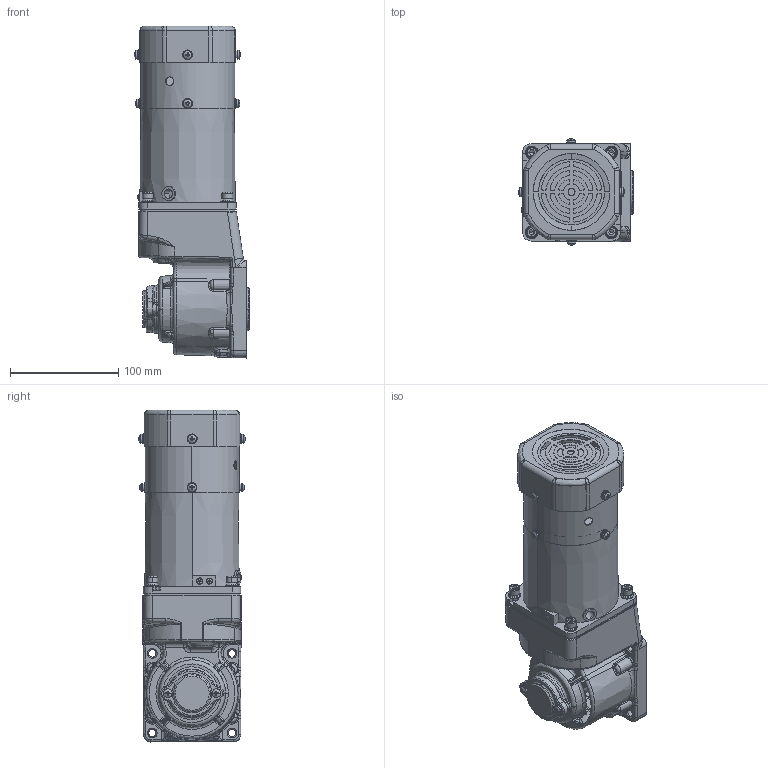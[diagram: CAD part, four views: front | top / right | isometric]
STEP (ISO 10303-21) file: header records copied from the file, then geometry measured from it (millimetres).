
FILE_DESCRIPTION (( 'STEP AP203' ), '1' );
FILE_NAME ('5RK60GU-CMF(5GU3RC-180RC)ÐÂ.STEP', '2022-02-23T06:48:16', ( 'PC' ), ( 'Microsoft' ), 'SwSTEP 2.0', 'SolidWorks 2014', '' );
FILE_SCHEMA (( 'CONFIG_CONTROL_DESIGN' ));
Length unit declared in the file: millimetre
Products named in the file (8): 90諾陑怀堤粣; hexagon socket head cap screws gb_GB_FASTENER_SCREWS_HSHCS M5X12-N; ZD-5GU50RC-505-003綴傷裔1; cross recessed pan head screws gb_GB_CROSS_SCREWS_TYPE1 M4X6-6  H type-N; 5RK60GU-CMF(5GU3RT-180RT); 5RK60GU-CMF(5GU3RC-180RC)陔; 90妗陑俋倛芞; 90RT妗陑怀堤傷裔
Assembly tree (11 placements, depth 2):
  5RK60GU-CMF(5GU3RC-180RC)陔
    90妗陑俋倛芞
    90RT妗陑怀堤傷裔
    90諾陑怀堤粣
    hexagon socket head cap screws gb_GB_FASTENER_SCREWS_HSHCS M5X12-N  x4
    ZD-5GU50RC-505-003綴傷裔1
    cross recessed pan head screws gb_GB_CROSS_SCREWS_TYPE1 M4X6-6  H type-N  x2
    5RK60GU-CMF(5GU3RT-180RT)
Bounding box: 106.75 x 98.11 x 306.54 mm (x, y, z)
Volume: 1492817.7 mm3; surface area: 243817.8 mm2
Topology: 54 solids, 54 shells, 2405 faces, 5963 edges, 3615 vertices
Faces by surface type: plane 753, cylinder 641, bspline 510, cone 412, torus 85, sphere 4
Entity records: 97332 total; most frequent: CARTESIAN_POINT 45583, ORIENTED_EDGE 11222, DIRECTION 9868, EDGE_CURVE 5611, AXIS2_PLACEMENT_3D 3905, VERTEX_POINT 3472, EDGE_LOOP 2475, ADVANCED_FACE 2305
